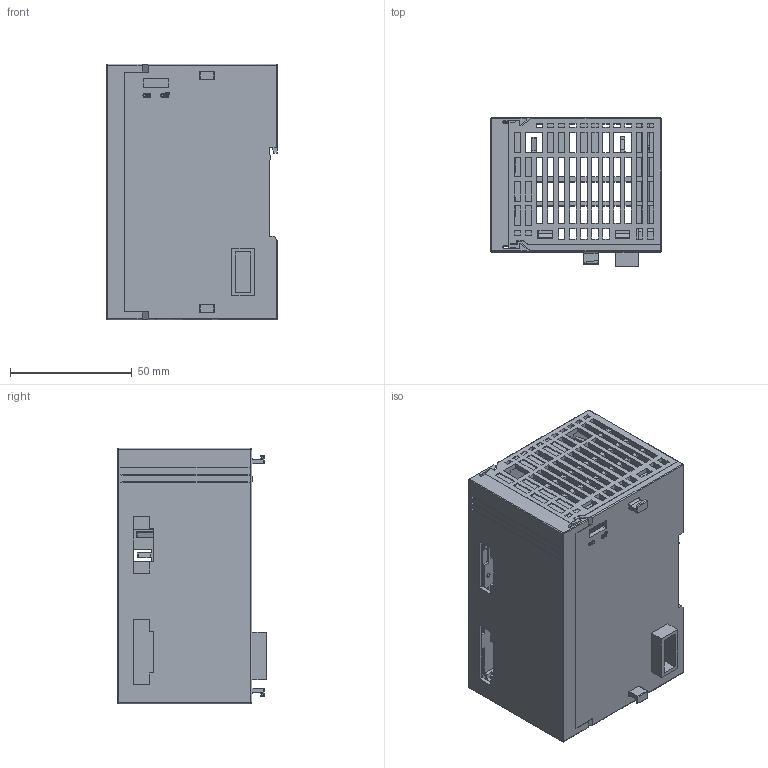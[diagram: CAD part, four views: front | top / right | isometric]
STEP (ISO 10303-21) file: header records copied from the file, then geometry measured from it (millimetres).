
FILE_DESCRIPTION(('STEP AP242'), '1');
FILE_NAME('PMP-01-P50-E', '', ('UNSPECIFIED'), ('UNSPECIFIED'), 'C3D Converter', 'C3D Toolkit', '');
FILE_SCHEMA(('AP242_MANAGED_MODEL_BASED_3D_ENGINEERING_MIM_LF { 1 0 10303 442 1 1 4 }'));
Length unit declared in the file: millimetre
Products named in the file (1): PMP-01-P50-E
Bounding box: 70 x 60.8 x 105 mm (x, y, z)
Volume: 56346.6 mm3; surface area: 71233 mm2
Topology: 3 solids, 3 shells, 1459 faces, 4257 edges, 2789 vertices
Faces by surface type: plane 1210, bspline 248, cylinder 1
Entity records: 84244 total; most frequent: CARTESIAN_POINT 36069, ORIENTED_EDGE 8488, DIRECTION 5963, EDGE_CURVE 4244, LINE 3537, VECTOR 3537, VERTEX_POINT 2788, FACE_BOUND 1674
